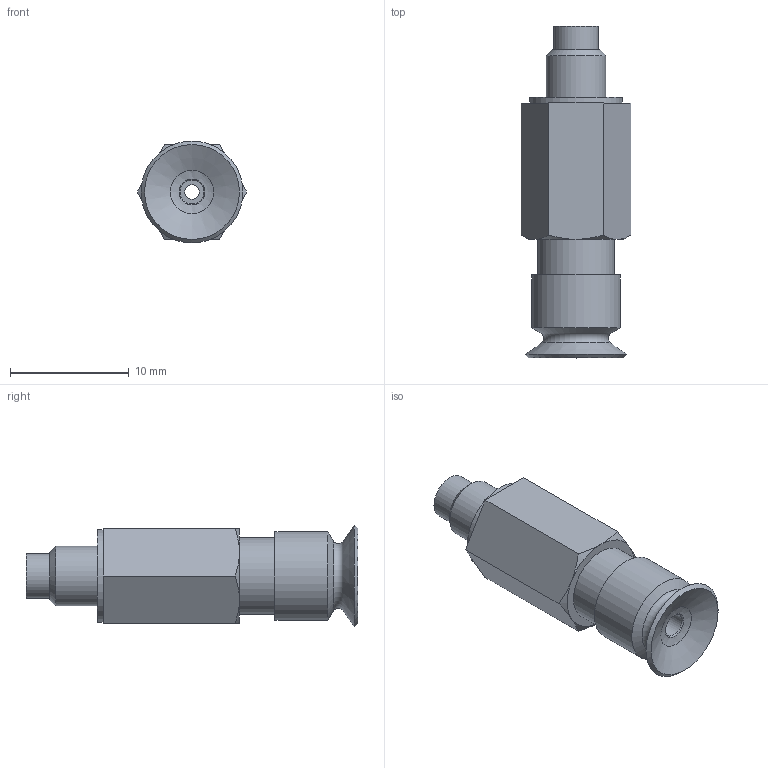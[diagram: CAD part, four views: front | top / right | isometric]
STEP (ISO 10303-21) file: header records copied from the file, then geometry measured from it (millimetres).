
FILE_DESCRIPTION(('STEP AP203'),'1');
FILE_NAME('.stp','2025-04-07T02:40:50',(' '),(' '),'Spatial InterOp 3D',' ',' ');
FILE_SCHEMA(('CONFIG_CONTROL_DESIGN'));
Length unit declared in the file: millimetre
Products named in the file (4): BPSS-L3-BPFG-8A-※; BPSS-7-L3-M; BPSS-7-L3-F; BPFG-8A-※
Assembly tree (3 placements, depth 2):
  BPSS-L3-BPFG-8A-※
    BPSS-7-L3-M
    BPSS-7-L3-F
    BPFG-8A-※
Bounding box: 9.24 x 28 x 8.6 mm (x, y, z)
Volume: 988.6 mm3; surface area: 1634.5 mm2
Topology: 3 solids, 3 shells, 55 faces, 105 edges, 65 vertices
Faces by surface type: plane 21, cylinder 15, cone 11, torus 7, bspline 1
Full cylindrical faces by diameter (mm): 1.2 x1, 2 x1, 2.4 x2, 3.4 x1, 3.8 x1, 4 x2, 5 x1, 6 x2, 6.5 x2, 7.5 x1, 7.8 x1
Entity records: 1437 total; most frequent: CARTESIAN_POINT 242, DIRECTION 224, ORIENTED_EDGE 144, AXIS2_PLACEMENT_3D 106, EDGE_LOOP 98, FACE_OUTER_BOUND 78, EDGE_CURVE 72, VERTEX_POINT 60
